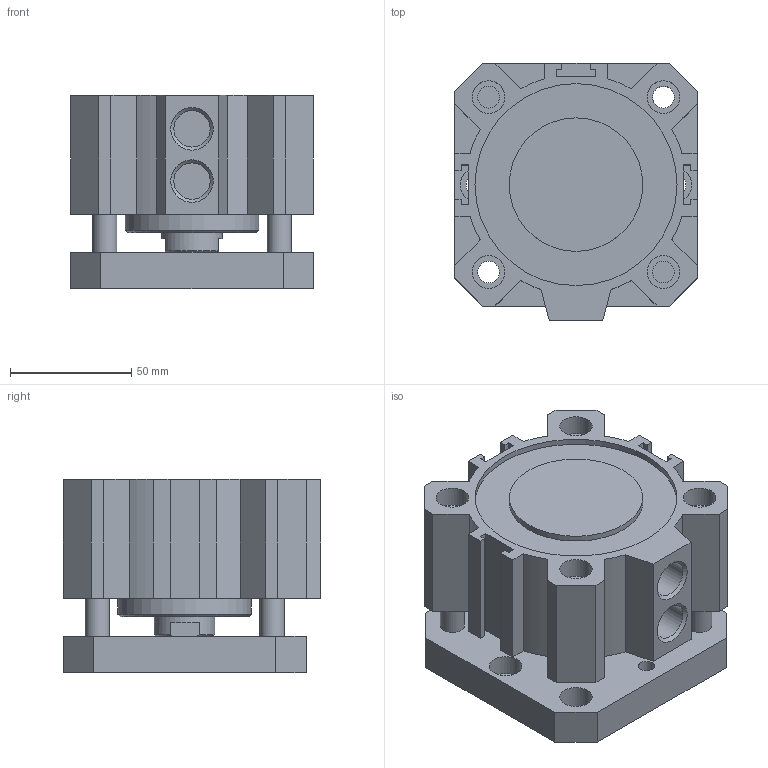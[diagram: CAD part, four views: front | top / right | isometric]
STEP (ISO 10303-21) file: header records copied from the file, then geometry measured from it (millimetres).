
FILE_DESCRIPTION(/* description */ (''),/* implementation_level */ '2;1');
FILE_NAME(/* name */ 'I:\Area Tecnica\Disegni\VARIE-3D\Componenti\1500\Ø80\15##_80_####_#\1501_80_0005_AR.stp',/* time_stamp */ '2016-08-24T14:11:33+02:00',/* author */ ('Maniean1'),/* organization */ ('Pneumax S.p.A.'),/* preprocessor_version */ 'ST-DEVELOPER v15.2',/* originating_system */ 'Autodesk Inventor 2014',/* authorisation */ '');
FILE_SCHEMA (('AUTOMOTIVE_DESIGN { 1 0 10303 214 3 1 1 }'));
Length unit declared in the file: millimetre
Products named in the file (3): C_1501_80_0005_AR; S_1501_80_0005_AR; 1501_80_0005_AR
Bounding box: 100 x 106 x 79.5 mm (x, y, z)
Volume: 524245.3 mm3; surface area: 115835.6 mm2
Topology: 2 solids, 2 shells, 139 faces, 341 edges, 228 vertices
Faces by surface type: plane 94, cylinder 40, cone 5
Full cylindrical faces by diameter (mm): 6.647 x2, 8.5 x2, 9 x4, 10 x4, 13.5 x10, 14.95 x2, 25 x2, 55 x2, 80 x2, 83.2 x2
Entity records: 4083 total; most frequent: CARTESIAN_POINT 674, DIRECTION 672, ORIENTED_EDGE 600, EDGE_CURVE 300, AXIS2_PLACEMENT_3D 232, VERTEX_POINT 222, EDGE_LOOP 216, LINE 208
